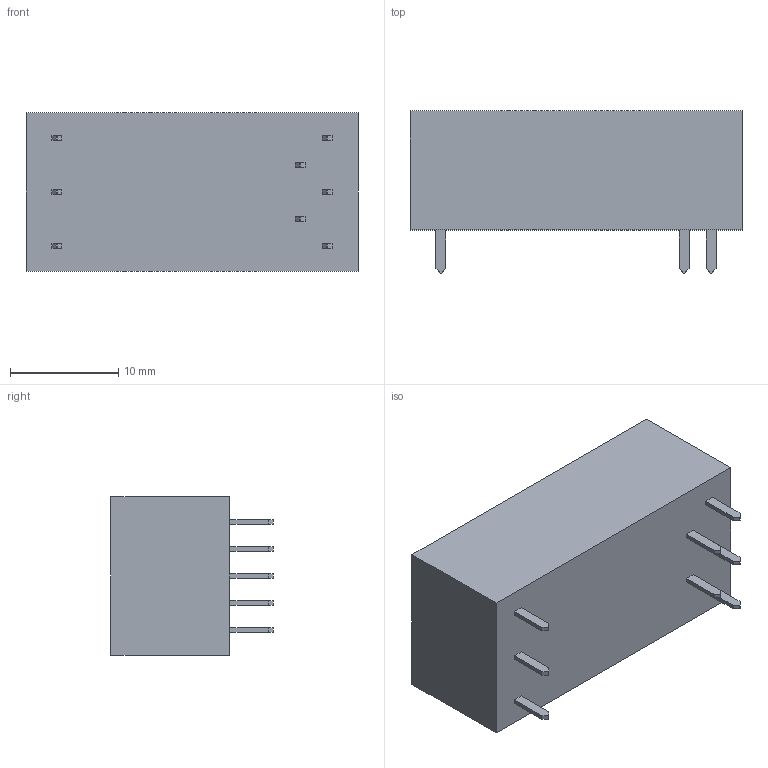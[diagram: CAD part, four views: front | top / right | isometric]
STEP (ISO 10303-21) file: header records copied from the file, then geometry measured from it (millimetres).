
FILE_DESCRIPTION (( 'STEP AP203' ), '1' );
FILE_NAME ('RD2RC3.STEP', '2019-09-12T16:48:12', ( '' ), ( '' ), 'SwSTEP 2.0', 'SolidWorks 2012', '' );
FILE_SCHEMA (( 'CONFIG_CONTROL_DESIGN' ));
Length unit declared in the file: millimetre
Products named in the file (1): RD2RC3
Bounding box: 30.7 x 15 x 14.7 mm (x, y, z)
Volume: 4975.2 mm3; surface area: 1980.5 mm2
Topology: 1 solids, 1 shells, 62 faces, 156 edges, 104 vertices
Faces by surface type: plane 62
Entity records: 1897 total; most frequent: CARTESIAN_POINT 323, ORIENTED_EDGE 312, DIRECTION 282, VECTOR 156, LINE 156, EDGE_CURVE 156, VERTEX_POINT 104, EDGE_LOOP 70
